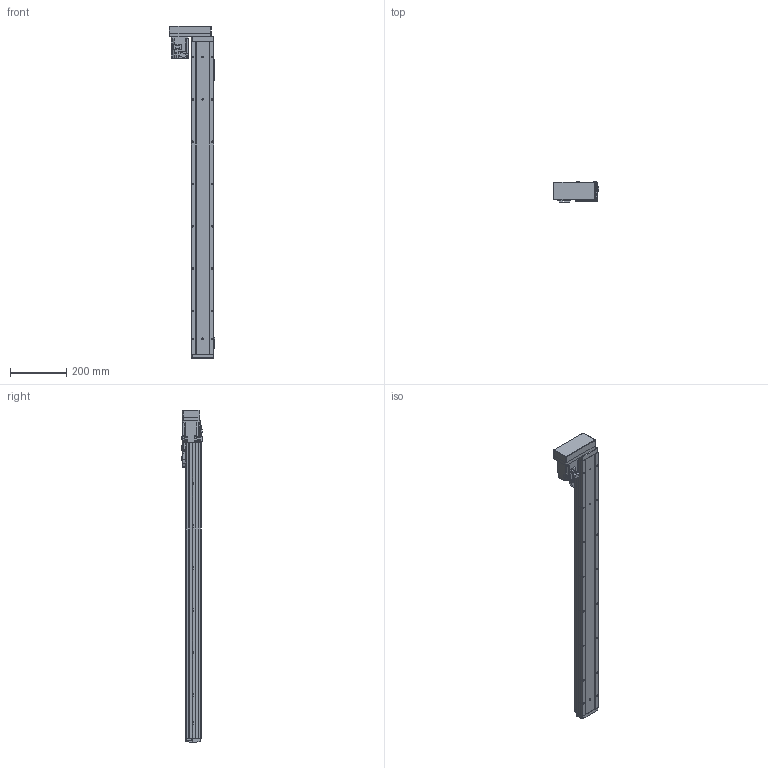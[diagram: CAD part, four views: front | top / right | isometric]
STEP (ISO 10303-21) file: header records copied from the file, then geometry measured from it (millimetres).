
FILE_DESCRIPTION (( 'STEP AP214' ), '1' );
FILE_NAME ('GSH8-950-BR-M20-1.step', '2025-01-07T06:11:38', ( '' ), ( '' ), 'SwSTEP 2.0', 'SolidWorks 2012', '' );
FILE_SCHEMA (( 'AUTOMOTIVE_DESIGN' ));
Length unit declared in the file: millimetre
Products named in the file (5): GSH8-BL-008; GSH8-950-BR-M20-1; HG-KR23_200W_Motor; GSH8-GY-004; GSH8-BL-011-950-M20
Assembly tree (4 placements, depth 2):
  GSH8-950-BR-M20-1
    GSH8-BL-011-950-M20
    GSH8-GY-004
    GSH8-BL-008
    HG-KR23_200W_Motor
Bounding box: 163 x 71.3 x 1178.2 mm (x, y, z)
Volume: 2618807.7 mm3; surface area: 683976.1 mm2
Topology: 4 solids, 8 shells, 1157 faces, 3047 edges, 1963 vertices
Faces by surface type: plane 648, cylinder 413, torus 42, cone 26, bspline 24, sphere 4
Entity records: 46411 total; most frequent: CARTESIAN_POINT 11420, DIRECTION 6191, ORIENTED_EDGE 6078, EDGE_CURVE 3039, AXIS2_PLACEMENT_3D 2090, LINE 2011, VECTOR 2011, VERTEX_POINT 1959
